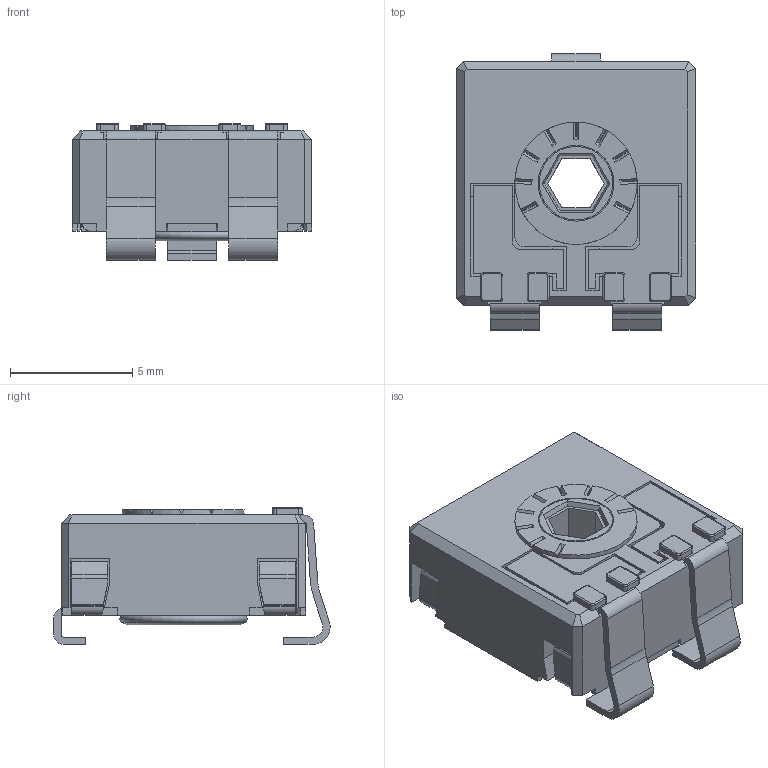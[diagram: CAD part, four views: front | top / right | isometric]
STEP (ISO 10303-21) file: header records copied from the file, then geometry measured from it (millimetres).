
FILE_DESCRIPTION(/* description */ (''),/* implementation_level */ '2;1');
FILE_NAME(/* name */ 'COMCA9MVSMD.stp',/* time_stamp */ '2026-03-30T17:17:17+02:00',/* author */ ('CEM'),/* organization */ (''),/* preprocessor_version */ 'ST-DEVELOPER v20.1',/* originating_system */ 'Autodesk Inventor 2026',/* authorisation */ '');
FILE_SCHEMA (('AUTOMOTIVE_DESIGN { 1 0 10303 214 3 1 1 }'));
Length unit declared in the file: millimetre
Products named in the file (1): COMCA9MVSMD
Bounding box: 9.8 x 11.3 x 5.6 mm (x, y, z)
Volume: 244.4 mm3; surface area: 838.8 mm2
Topology: 2 solids, 2 shells, 511 faces, 1459 edges, 927 vertices
Faces by surface type: plane 392, cylinder 78, torus 19, cone 16, bspline 6
Full cylindrical faces by diameter (mm): 3 x1, 3.1 x1, 4 x1, 4.8 x1, 5 x1
Entity records: 16809 total; most frequent: CARTESIAN_POINT 3106, ORIENTED_EDGE 2918, DIRECTION 2695, EDGE_CURVE 1459, LINE 1159, VECTOR 1159, VERTEX_POINT 927, AXIS2_PLACEMENT_3D 768
